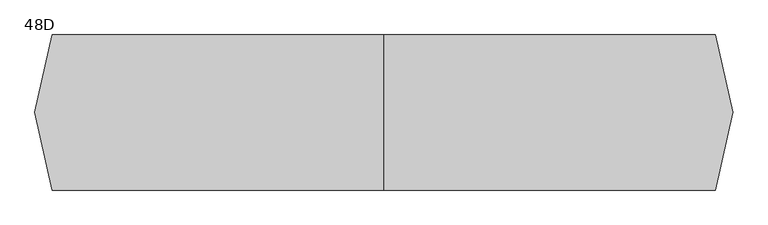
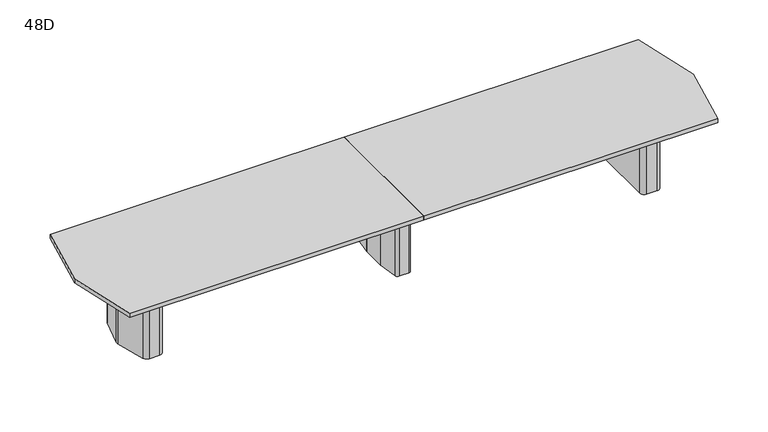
"""IFC4 building model written with IfcOpenShell, lengths in millimetres: furniture geometry, Coalesse_AM_Table_Conference_ETable2_Faceted_18ft_ThreeBase : 48D."""

from ifc_helpers import new_model, si_unit, frame, origin, place, context, project, spatial, polyline, circle_curve, outline, extrude, source, transform, mapped, element, save
from ifc_brep_helpers import plane_surface, cylinder_surface, revolved_surface, advanced_brep


def furniture_48d_39ecba71(model_context):
    return source(origin(), model_context, "Body", "SolidModel", [
        advanced_brep(
        [(35.71875, 206.375, 3.175), (10.31875, 231.775, 3.175), (-10.31875, 231.775, 3.175), (-35.71875, 206.375, 3.175), (-35.71875, -206.375, 3.175), (-10.31875, -231.775, 3.175), (10.31875, -231.775, 3.175), (35.71875, -206.375, 3.175), (-61.11875, 206.375, 0.0), (-10.31875, 257.175, 0.0), (10.31875, 257.175, 0.0), (61.11875, 206.375, 0.0), (61.11875, -206.375, 0.0), (10.31875, -257.175, 0.0), (-10.31875, -257.175, 0.0), (-61.11875, -206.375, 0.0), (-61.11875, -206.375, 3.175), (-61.11875, 206.375, 3.175), (-10.31875, -257.175, 3.175), (10.31875, -257.175, 3.175), (61.11875, -206.375, 3.175), (61.11875, 206.375, 3.175), (10.31875, 257.175, 3.175), (-10.31875, 257.175, 3.175), (-92.6215974, 106.2976848, 698.5), (-92.86875, 102.7629613, 698.5), (-92.86875, -102.7629613, 698.5), (-92.6215974, -106.2976848, 698.5), (-67.7988375, -282.9347235, 698.5), (-42.6459902, -304.8, 698.5), (42.6459902, -304.8, 698.5), (67.7988375, -282.9347235, 698.5), (92.6215974, -106.2976848, 698.5), (92.86875, -102.7629613, 698.5), (92.86875, 102.7629613, 698.5), (92.6215974, 106.2976848, 698.5), (67.7988375, 282.9347235, 698.5), (42.6459902, 304.8, 698.5), (-42.6459902, 304.8, 698.5), (-67.7988375, 282.9347235, 698.5), (10.31875, 231.775, 698.5), (35.71875, 206.375, 698.5), (35.71875, -206.375, 698.5), (10.31875, -231.775, 698.5), (-10.31875, -231.775, 698.5), (-35.71875, -206.375, 698.5), (-35.71875, 206.375, 698.5), (-10.31875, 231.775, 698.5), (-92.6215974, 106.2976848, 3.175), (-67.7988375, 282.9347235, 3.175), (-42.6459902, 304.8, 3.175), (42.6459902, 304.8, 3.175), (67.7988375, 282.9347235, 3.175), (92.6215974, 106.2976848, 3.175), (92.86875, 102.7629613, 3.175), (92.86875, -102.7629613, 3.175), (92.6215974, -106.2976848, 3.175), (67.7988375, -282.9347235, 3.175), (42.6459902, -304.8, 3.175), (-42.6459902, -304.8, 3.175), (-67.7988375, -282.9347235, 3.175), (-92.6215974, -106.2976848, 3.175), (-92.86875, -102.7629613, 3.175), (-92.86875, 102.7629613, 3.175)],
        [
            (0, 1, circle_curve(frame((10.31875, 206.375, 3.175), z_axis=(0.0, 0.0, 1.0), x_axis=(1.0, 0.0, 0.0)), 25.4)),
            (1, 2),
            (2, 3, circle_curve(frame((-10.31875, 206.375, 3.175), z_axis=(0.0, 0.0, 1.0), x_axis=(1.0, 0.0, 0.0)), 25.4)),
            (3, 4),
            (4, 5, circle_curve(frame((-10.31875, -206.375, 3.175), z_axis=(0.0, 0.0, 1.0), x_axis=(1.0, 0.0, 0.0)), 25.4)),
            (5, 6),
            (6, 7, circle_curve(frame((10.31875, -206.375, 3.175), z_axis=(0.0, 0.0, 1.0), x_axis=(1.0, 0.0, 0.0)), 25.4)),
            (7, 0),
            (8, 9, circle_curve(frame((-10.31875, 206.375, 0.0), z_axis=(0.0, 0.0, -1.0), x_axis=(1.0, 0.0, 0.0)), 50.8)),
            (9, 10),
            (10, 11, circle_curve(frame((10.31875, 206.375, 0.0), z_axis=(0.0, 0.0, -1.0), x_axis=(1.0, 0.0, 0.0)), 50.8)),
            (11, 12),
            (12, 13, circle_curve(frame((10.31875, -206.375, 0.0), z_axis=(0.0, 0.0, -1.0), x_axis=(1.0, 0.0, 0.0)), 50.8)),
            (13, 14),
            (14, 15, circle_curve(frame((-10.31875, -206.375, 0.0), z_axis=(0.0, 0.0, -1.0), x_axis=(1.0, 0.0, 0.0)), 50.8)),
            (15, 8),
            (15, 16),
            (16, 17),
            (17, 8),
            (14, 18),
            (18, 16, circle_curve(frame((-10.31875, -206.375, 3.175), z_axis=(0.0, 0.0, -1.0), x_axis=(1.0, 0.0, 0.0)), 50.8)),
            (13, 19),
            (19, 18),
            (12, 20),
            (20, 19, circle_curve(frame((10.31875, -206.375, 3.175), z_axis=(0.0, 0.0, -1.0), x_axis=(1.0, 0.0, 0.0)), 50.8)),
            (11, 21),
            (21, 20),
            (10, 22),
            (22, 21, circle_curve(frame((10.31875, 206.375, 3.175), z_axis=(0.0, 0.0, -1.0), x_axis=(1.0, 0.0, 0.0)), 50.8)),
            (9, 23),
            (23, 22),
            (17, 23, circle_curve(frame((-10.31875, 206.375, 3.175), z_axis=(0.0, 0.0, -1.0), x_axis=(1.0, 0.0, 0.0)), 50.8)),
            (24, 25, circle_curve(frame((-67.46875, 102.7629613, 698.5), z_axis=(0.0, 0.0, 1.0), x_axis=(1.0, 0.0, 0.0)), 25.4)),
            (25, 26),
            (26, 27, circle_curve(frame((-67.46875, -102.7629613, 698.5), z_axis=(0.0, 0.0, 1.0), x_axis=(1.0, 0.0, 0.0)), 25.4)),
            (27, 28),
            (28, 29, circle_curve(frame((-42.6459902, -279.4, 698.5), z_axis=(0.0, 0.0, 1.0), x_axis=(1.0, 0.0, 0.0)), 25.4)),
            (29, 30),
            (30, 31, circle_curve(frame((42.6459902, -279.4, 698.5), z_axis=(0.0, 0.0, 1.0), x_axis=(1.0, 0.0, 0.0)), 25.4)),
            (31, 32),
            (32, 33, circle_curve(frame((67.46875, -102.7629613, 698.5), z_axis=(0.0, 0.0, 1.0), x_axis=(1.0, 0.0, 0.0)), 25.4)),
            (33, 34),
            (34, 35, circle_curve(frame((67.46875, 102.7629613, 698.5), z_axis=(0.0, 0.0, 1.0), x_axis=(1.0, 0.0, 0.0)), 25.4)),
            (35, 36),
            (36, 37, circle_curve(frame((42.6459902, 279.4, 698.5), z_axis=(0.0, 0.0, 1.0), x_axis=(1.0, 0.0, 0.0)), 25.4)),
            (37, 38),
            (38, 39, circle_curve(frame((-42.6459902, 279.4, 698.5), z_axis=(0.0, 0.0, 1.0), x_axis=(1.0, 0.0, 0.0)), 25.4)),
            (39, 24),
            (40, 41, circle_curve(frame((10.31875, 206.375, 698.5), z_axis=(0.0, 0.0, -1.0), x_axis=(1.0, 0.0, 0.0)), 25.4)),
            (41, 42),
            (42, 43, circle_curve(frame((10.31875, -206.375, 698.5), z_axis=(0.0, 0.0, -1.0), x_axis=(1.0, 0.0, 0.0)), 25.4)),
            (43, 44),
            (44, 45, circle_curve(frame((-10.31875, -206.375, 698.5), z_axis=(0.0, 0.0, -1.0), x_axis=(1.0, 0.0, 0.0)), 25.4)),
            (45, 46),
            (46, 47, circle_curve(frame((-10.31875, 206.375, 698.5), z_axis=(0.0, 0.0, -1.0), x_axis=(1.0, 0.0, 0.0)), 25.4)),
            (47, 40),
            (48, 49),
            (49, 50, circle_curve(frame((-42.6459902, 279.4, 3.175), z_axis=(0.0, 0.0, -1.0), x_axis=(1.0, 0.0, 0.0)), 25.4)),
            (50, 51),
            (51, 52, circle_curve(frame((42.6459902, 279.4, 3.175), z_axis=(0.0, 0.0, -1.0), x_axis=(1.0, 0.0, 0.0)), 25.4)),
            (52, 53),
            (53, 54, circle_curve(frame((67.46875, 102.7629613, 3.175), z_axis=(0.0, 0.0, -1.0), x_axis=(1.0, 0.0, 0.0)), 25.4)),
            (54, 55),
            (55, 56, circle_curve(frame((67.46875, -102.7629613, 3.175), z_axis=(0.0, 0.0, -1.0), x_axis=(1.0, 0.0, 0.0)), 25.4)),
            (56, 57),
            (57, 58, circle_curve(frame((42.6459902, -279.4, 3.175), z_axis=(0.0, 0.0, -1.0), x_axis=(1.0, 0.0, 0.0)), 25.4)),
            (58, 59),
            (59, 60, circle_curve(frame((-42.6459902, -279.4, 3.175), z_axis=(0.0, 0.0, -1.0), x_axis=(1.0, 0.0, 0.0)), 25.4)),
            (60, 61),
            (61, 62, circle_curve(frame((-67.46875, -102.7629613, 3.175), z_axis=(0.0, 0.0, -1.0), x_axis=(1.0, 0.0, 0.0)), 25.4)),
            (62, 63),
            (63, 48, circle_curve(frame((-67.46875, 102.7629613, 3.175), z_axis=(0.0, 0.0, -1.0), x_axis=(1.0, 0.0, 0.0)), 25.4)),
            (24, 48),
            (63, 25),
            (62, 26),
            (61, 27),
            (60, 28),
            (59, 29),
            (58, 30),
            (57, 31),
            (56, 32),
            (55, 33),
            (54, 34),
            (53, 35),
            (52, 36),
            (51, 37),
            (50, 38),
            (49, 39),
            (40, 1),
            (0, 41),
            (7, 42),
            (6, 43),
            (5, 44),
            (4, 45),
            (3, 46),
            (2, 47),
        ],
        [
            plane_surface(frame((-61.11875, -206.375, 3.175), z_axis=(0.0, 0.0, 1.0), x_axis=(0.0, -1.0, 0.0))),
            plane_surface(frame((-61.11875, -206.375, 0.0), z_axis=(0.0, 0.0, -1.0), x_axis=(0.0, 1.0, 0.0))),
            plane_surface(frame((-61.11875, 206.375, 3.175), z_axis=(-1.0, 0.0, 0.0), x_axis=(0.0, 0.0, -1.0))),
            cylinder_surface(frame((-10.31875, -206.375, 0.0), z_axis=(0.0, 0.0, 1.0), x_axis=(1.0, 0.0, 0.0)), 50.8),
            plane_surface(frame((-10.31875, -257.175, 3.175), z_axis=(0.0, -1.0, 0.0), x_axis=(0.0, 0.0, -1.0))),
            cylinder_surface(frame((10.31875, -206.375, 0.0), z_axis=(0.0, 0.0, 1.0), x_axis=(1.0, 0.0, 0.0)), 50.8),
            plane_surface(frame((61.11875, -206.375, 3.175), z_axis=(1.0, 0.0, 0.0), x_axis=(0.0, 0.0, -1.0))),
            cylinder_surface(frame((10.31875, 206.375, 0.0), z_axis=(0.0, 0.0, 1.0), x_axis=(1.0, 0.0, 0.0)), 50.8),
            plane_surface(frame((10.31875, 257.175, 3.175), z_axis=(0.0, 1.0, 0.0), x_axis=(0.0, 0.0, -1.0))),
            cylinder_surface(frame((-10.31875, 206.375, 0.0), z_axis=(0.0, 0.0, 1.0), x_axis=(1.0, 0.0, 0.0)), 50.8),
            plane_surface(frame((-42.06875, 102.7629613, 698.5), z_axis=(0.0, 0.0, 1.0), x_axis=(0.0, 1.0, 0.0))),
            plane_surface(frame((-42.06875, 102.7629613, 3.175), z_axis=(0.0, 0.0, -1.0), x_axis=(0.0, -1.0, 0.0))),
            cylinder_surface(frame((-67.46875, 102.7629613, 3.175), z_axis=(0.0, 0.0, 1.0), x_axis=(1.0, 0.0, 0.0)), 25.4),
            plane_surface(frame((-92.86875, 102.7629613, 698.5), z_axis=(-1.0, 0.0, 0.0), x_axis=(0.0, 0.0, -1.0))),
            cylinder_surface(frame((-67.46875, -102.7629613, 3.175), z_axis=(0.0, 0.0, 1.0), x_axis=(1.0, 0.0, 0.0)), 25.4),
            plane_surface(frame((-92.6215974, -106.2976848, 698.5), z_axis=(-0.9902695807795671, -0.13916234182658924, 0.0), x_axis=(0.0, 0.0, -1.0))),
            cylinder_surface(frame((-42.6459902, -279.4, 3.175), z_axis=(0.0, 0.0, 1.0), x_axis=(1.0, 0.0, 0.0)), 25.4),
            plane_surface(frame((-42.6459902, -304.8, 698.5), z_axis=(0.0, -1.0, 0.0), x_axis=(0.0, 0.0, -1.0))),
            cylinder_surface(frame((42.6459902, -279.4, 3.175), z_axis=(0.0, 0.0, 1.0), x_axis=(1.0, 0.0, 0.0)), 25.4),
            plane_surface(frame((67.7988375, -282.9347235, 698.5), z_axis=(0.9902695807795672, -0.13916234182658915, 0.0), x_axis=(0.0, 0.0, -1.0))),
            cylinder_surface(frame((67.46875, -102.7629613, 3.175), z_axis=(0.0, 0.0, 1.0), x_axis=(1.0, 0.0, 0.0)), 25.4),
            plane_surface(frame((92.86875, -102.7629613, 698.5), z_axis=(1.0, 0.0, 0.0), x_axis=(0.0, 0.0, -1.0))),
            cylinder_surface(frame((67.46875, 102.7629613, 3.175), z_axis=(0.0, 0.0, 1.0), x_axis=(1.0, 0.0, 0.0)), 25.4),
            plane_surface(frame((92.6215974, 106.2976848, 698.5), z_axis=(0.9902695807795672, 0.1391623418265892, 0.0), x_axis=(0.0, 0.0, -1.0))),
            cylinder_surface(frame((42.6459902, 279.4, 3.175), z_axis=(0.0, 0.0, 1.0), x_axis=(1.0, 0.0, 0.0)), 25.4),
            plane_surface(frame((42.6459902, 304.8, 698.5), z_axis=(0.0, 1.0, 0.0), x_axis=(0.0, 0.0, -1.0))),
            cylinder_surface(frame((-42.6459902, 279.4, 3.175), z_axis=(0.0, 0.0, 1.0), x_axis=(1.0, 0.0, 0.0)), 25.4),
            plane_surface(frame((-67.7988375, 282.9347235, 698.5), z_axis=(-0.9902695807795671, 0.13916234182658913, 0.0), x_axis=(0.0, 0.0, -1.0))),
            revolved_surface(polyline([(35.71875, 206.375, 3.175), (35.71875, 206.375, 698.5)]), (10.31875, 206.375, 0.0), (0.0, 0.0, -1.0)),
            plane_surface(frame((35.71875, 206.375, 698.5), z_axis=(-1.0, 0.0, 0.0), x_axis=(0.0, 0.0, -1.0))),
            revolved_surface(polyline([(35.71875, -206.375, 3.175), (35.71875, -206.375, 698.5)]), (10.31875, -206.375, 0.0), (0.0, 0.0, -1.0)),
            plane_surface(frame((10.31875, -231.775, 698.5), z_axis=(0.0, 1.0, 0.0), x_axis=(0.0, 0.0, -1.0))),
            revolved_surface(polyline([(15.081249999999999, -206.375, 3.175), (15.081249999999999, -206.375, 698.5)]), (-10.31875, -206.375, 0.0), (0.0, 0.0, -1.0)),
            plane_surface(frame((-35.71875, -206.375, 698.5), z_axis=(1.0, 0.0, 0.0), x_axis=(0.0, 0.0, -1.0))),
            revolved_surface(polyline([(15.081249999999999, 206.375, 3.175), (15.081249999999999, 206.375, 698.5)]), (-10.31875, 206.375, 0.0), (0.0, 0.0, -1.0)),
            plane_surface(frame((-10.31875, 231.775, 698.5), z_axis=(0.0, -1.0, 0.0), x_axis=(0.0, 0.0, -1.0))),
        ],
        [
            (0, [[1, 2, 3, 4, 5, 6, 7, 8]]),
            (1, [[9, 10, 11, 12, 13, 14, 15, 16]]),
            (2, [[-16, 17, 18, 19]]),
            (3, [[-15, 20, 21, -17]]),
            (4, [[-14, 22, 23, -20]]),
            (5, [[-13, 24, 25, -22]]),
            (6, [[-12, 26, 27, -24]]),
            (7, [[-11, 28, 29, -26]]),
            (8, [[-10, 30, 31, -28]]),
            (9, [[-9, -19, 32, -30]]),
            (10, [[33, 34, 35, 36, 37, 38, 39, 40, 41, 42, 43, 44, 45, 46, 47, 48], [49, 50, 51, 52, 53, 54, 55, 56]]),
            (11, [[57, 58, 59, 60, 61, 62, 63, 64, 65, 66, 67, 68, 69, 70, 71, 72], [-18, -21, -23, -25, -27, -29, -31, -32]]),
            (12, [[-33, 73, -72, 74]]),
            (13, [[-34, -74, -71, 75]]),
            (14, [[-35, -75, -70, 76]]),
            (15, [[-36, -76, -69, 77]]),
            (16, [[-37, -77, -68, 78]]),
            (17, [[-38, -78, -67, 79]]),
            (18, [[-39, -79, -66, 80]]),
            (19, [[-40, -80, -65, 81]]),
            (20, [[-41, -81, -64, 82]]),
            (21, [[-42, -82, -63, 83]]),
            (22, [[-43, -83, -62, 84]]),
            (23, [[-44, -84, -61, 85]]),
            (24, [[-45, -85, -60, 86]]),
            (25, [[-46, -86, -59, 87]]),
            (26, [[-47, -87, -58, 88]]),
            (27, [[-48, -88, -57, -73]]),
            (28, [[-49, 89, -1, 90]]),
            (29, [[-50, -90, -8, 91]]),
            (30, [[-51, -91, -7, 92]]),
            (31, [[-52, -92, -6, 93]]),
            (32, [[-53, -93, -5, 94]]),
            (33, [[-54, -94, -4, 95]]),
            (34, [[-55, -95, -3, 96]]),
            (35, [[-56, -96, -2, -89]]),
        ],
    ),
        advanced_brep(
        [(2284.624548, 274.2093613, 698.5), (2244.7579246, 304.8, 698.5), (2155.825, 304.8, 698.5), (2114.55, 263.525, 698.5), (2114.55, -263.525, 698.5), (2155.825, -304.8, 698.5), (2244.7579246, -304.8, 698.5), (2284.624548, -274.2093613, 698.5), (2355.2503901, -10.6333708, 698.5), (2355.2503901, 10.6333708, 698.5), (2152.65, -206.375, 698.5), (2152.65, 206.375, 698.5), (2178.05, 231.775, 698.5), (2237.0608422, 231.775, 698.5), (2261.595338, 212.9490792, 698.5), (2300.2875, 68.54974, 698.5), (2300.2875, -68.54974, 698.5), (2261.595338, -212.9490792, 698.5), (2237.0608422, -231.775, 698.5), (2178.05, -231.775, 698.5), (2284.624548, 274.2093613, 3.175), (2355.2503901, 10.6333708, 3.175), (2355.2503901, -10.6333708, 3.175), (2284.624548, -274.2093613, 3.175), (2244.7579246, -304.8, 3.175), (2155.825, -304.8, 3.175), (2114.55, -263.525, 3.175), (2114.55, 263.525, 3.175), (2155.825, 304.8, 3.175), (2244.7579246, 304.8, 3.175), (2273.8625859, 216.2361187, 3.175), (2237.0608422, 244.475, 3.175), (2178.05, 244.475, 3.175), (2139.95, 206.375, 3.175), (2139.95, -206.375, 3.175), (2178.05, -244.475, 3.175), (2237.0608422, -244.475, 3.175), (2273.8625859, -216.2361187, 3.175), (2312.9875, -70.2217466, 3.175), (2312.9875, 70.2217466, 3.175), (2178.05, -231.775, 3.175), (2152.65, -206.375, 3.175), (2237.0608422, -231.775, 3.175), (2261.595338, -212.9490792, 3.175), (2300.2875, -68.54974, 3.175), (2300.2875, 68.54974, 3.175), (2261.595338, 212.9490792, 3.175), (2237.0608422, 231.775, 3.175), (2178.05, 231.775, 3.175), (2152.65, 206.375, 3.175), (2273.8625859, 216.2361187, 0.0), (2312.9875, 70.2217466, 0.0), (2312.9875, -70.2217466, 0.0), (2273.8625859, -216.2361187, 0.0), (2237.0608422, -244.475, 0.0), (2178.05, -244.475, 0.0), (2139.95, -206.375, 0.0), (2139.95, 206.375, 0.0), (2178.05, 244.475, 0.0), (2237.0608422, 244.475, 0.0)],
        [
            (0, 1, circle_curve(frame((2244.7579246, 263.5270004, 698.5), z_axis=(0.0, 0.0, 1.0), x_axis=(-1.0, 0.0, 0.0)), 41.2729996)),
            (1, 2),
            (2, 3, circle_curve(frame((2155.825, 263.525, 698.5), z_axis=(0.0, 0.0, 1.0), x_axis=(-1.0, 0.0, 0.0)), 41.275)),
            (3, 4),
            (4, 5, circle_curve(frame((2155.825, -263.525, 698.5), z_axis=(0.0, 0.0, 1.0), x_axis=(-1.0, 0.0, 0.0)), 41.275)),
            (5, 6),
            (6, 7, circle_curve(frame((2244.7579246, -263.5270004, 698.5), z_axis=(0.0, 0.0, 1.0), x_axis=(-1.0, 0.0, 0.0)), 41.2729996)),
            (7, 8),
            (8, 9, circle_curve(frame((2315.5665979, 0.0, 698.5), z_axis=(0.0, 0.0, 1.0), x_axis=(-1.0, 0.0, 0.0)), 41.0837187)),
            (9, 0),
            (10, 11),
            (11, 12, circle_curve(frame((2178.05, 206.375, 698.5), z_axis=(0.0, 0.0, -1.0), x_axis=(-1.0, 0.0, 0.0)), 25.4)),
            (12, 13),
            (13, 14, circle_curve(frame((2237.0608422, 206.375, 698.5), z_axis=(0.0, 0.0, -1.0), x_axis=(-1.0, 0.0, 0.0)), 25.4)),
            (14, 15),
            (15, 16),
            (16, 17),
            (17, 18, circle_curve(frame((2237.0608422, -206.375, 698.5), z_axis=(0.0, 0.0, -1.0), x_axis=(-1.0, 0.0, 0.0)), 25.4)),
            (18, 19),
            (19, 10, circle_curve(frame((2178.05, -206.375, 698.5), z_axis=(0.0, 0.0, -1.0), x_axis=(-1.0, 0.0, 0.0)), 25.4)),
            (20, 21),
            (21, 22, circle_curve(frame((2315.5665979, 0.0, 3.175), z_axis=(0.0, 0.0, -1.0), x_axis=(-1.0, 0.0, 0.0)), 41.0837187)),
            (22, 23),
            (23, 24, circle_curve(frame((2244.7579246, -263.5270004, 3.175), z_axis=(0.0, 0.0, -1.0), x_axis=(-1.0, 0.0, 0.0)), 41.2729996)),
            (24, 25),
            (25, 26, circle_curve(frame((2155.825, -263.525, 3.175), z_axis=(0.0, 0.0, -1.0), x_axis=(-1.0, 0.0, 0.0)), 41.275)),
            (26, 27),
            (27, 28, circle_curve(frame((2155.825, 263.525, 3.175), z_axis=(0.0, 0.0, -1.0), x_axis=(-1.0, 0.0, 0.0)), 41.275)),
            (28, 29),
            (29, 20, circle_curve(frame((2244.7579246, 263.5270004, 3.175), z_axis=(0.0, 0.0, -1.0), x_axis=(-1.0, 0.0, 0.0)), 41.2729996)),
            (30, 31, circle_curve(frame((2237.0608422, 206.375, 3.175), z_axis=(0.0, 0.0, 1.0), x_axis=(-1.0, 0.0, 0.0)), 38.1)),
            (31, 32),
            (32, 33, circle_curve(frame((2178.05, 206.375, 3.175), z_axis=(0.0, 0.0, 1.0), x_axis=(-1.0, 0.0, 0.0)), 38.1)),
            (33, 34),
            (34, 35, circle_curve(frame((2178.05, -206.375, 3.175), z_axis=(0.0, 0.0, 1.0), x_axis=(-1.0, 0.0, 0.0)), 38.1)),
            (35, 36),
            (36, 37, circle_curve(frame((2237.0608422, -206.375, 3.175), z_axis=(0.0, 0.0, 1.0), x_axis=(-1.0, 0.0, 0.0)), 38.1)),
            (37, 38),
            (38, 39),
            (39, 30),
            (9, 21),
            (20, 0),
            (8, 22),
            (7, 23),
            (6, 24),
            (5, 25),
            (4, 26),
            (3, 27),
            (2, 28),
            (1, 29),
            (19, 40),
            (40, 41, circle_curve(frame((2178.05, -206.375, 3.175), z_axis=(0.0, 0.0, -1.0), x_axis=(-1.0, 0.0, 0.0)), 25.4)),
            (41, 10),
            (18, 42),
            (42, 40),
            (17, 43),
            (43, 42, circle_curve(frame((2237.0608422, -206.375, 3.175), z_axis=(0.0, 0.0, -1.0), x_axis=(-1.0, 0.0, 0.0)), 25.4)),
            (16, 44),
            (44, 43),
            (15, 45),
            (45, 44),
            (14, 46),
            (46, 45),
            (13, 47),
            (47, 46, circle_curve(frame((2237.0608422, 206.375, 3.175), z_axis=(0.0, 0.0, -1.0), x_axis=(-1.0, 0.0, 0.0)), 25.4)),
            (12, 48),
            (48, 47),
            (11, 49),
            (49, 48, circle_curve(frame((2178.05, 206.375, 3.175), z_axis=(0.0, 0.0, -1.0), x_axis=(-1.0, 0.0, 0.0)), 25.4)),
            (41, 49),
            (50, 51),
            (51, 52),
            (52, 53),
            (53, 54, circle_curve(frame((2237.0608422, -206.375, 0.0), z_axis=(0.0, 0.0, -1.0), x_axis=(-1.0, 0.0, 0.0)), 38.1)),
            (54, 55),
            (55, 56, circle_curve(frame((2178.05, -206.375, 0.0), z_axis=(0.0, 0.0, -1.0), x_axis=(-1.0, 0.0, 0.0)), 38.1)),
            (56, 57),
            (57, 58, circle_curve(frame((2178.05, 206.375, 0.0), z_axis=(0.0, 0.0, -1.0), x_axis=(-1.0, 0.0, 0.0)), 38.1)),
            (58, 59),
            (59, 50, circle_curve(frame((2237.0608422, 206.375, 0.0), z_axis=(0.0, 0.0, -1.0), x_axis=(-1.0, 0.0, 0.0)), 38.1)),
            (50, 30),
            (39, 51),
            (38, 52),
            (37, 53),
            (36, 54),
            (35, 55),
            (34, 56),
            (33, 57),
            (32, 58),
            (31, 59),
        ],
        [
            plane_surface(frame((2355.2374275, 10.6817473, 698.5), z_axis=(0.0, 0.0, 1.0000000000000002), x_axis=(0.25882201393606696, -0.9659250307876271, 0.0))),
            plane_surface(frame((2355.2374275, 10.6817473, 3.175), z_axis=(0.0, 0.0, -1.0000000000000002), x_axis=(-0.25882201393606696, 0.9659250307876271, 0.0))),
            plane_surface(frame((2284.624548, 274.2093613, 698.5), z_axis=(0.9659250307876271, 0.25882201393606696, 0.0), x_axis=(0.0, 0.0, -1.0))),
            cylinder_surface(frame((2315.5665979, 0.0, 3.175), z_axis=(0.0, 0.0, 1.0), x_axis=(-1.0, 0.0, 0.0)), 41.0837187),
            plane_surface(frame((2355.2503901, -10.6333708, 698.5), z_axis=(0.9659250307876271, -0.2588220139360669, 0.0), x_axis=(0.0, 0.0, -1.0))),
            cylinder_surface(frame((2244.7579246, -263.5270004, 3.175), z_axis=(0.0, 0.0, 1.0), x_axis=(-1.0, 0.0, 0.0)), 41.2729996),
            plane_surface(frame((2244.7579246, -304.8, 698.5), z_axis=(0.0, -1.0, 0.0), x_axis=(0.0, 0.0, -1.0))),
            cylinder_surface(frame((2155.825, -263.525, 3.175), z_axis=(0.0, 0.0, 1.0), x_axis=(-1.0, 0.0, 0.0)), 41.275),
            plane_surface(frame((2114.55, -263.525, 698.5), z_axis=(-1.0, 0.0, 0.0), x_axis=(0.0, 0.0, -1.0))),
            cylinder_surface(frame((2155.825, 263.525, 3.175), z_axis=(0.0, 0.0, 1.0), x_axis=(-1.0, 0.0, 0.0)), 41.275),
            plane_surface(frame((2155.825, 304.8, 698.5), z_axis=(0.0, 1.0, 0.0), x_axis=(0.0, 0.0, -1.0))),
            cylinder_surface(frame((2244.7579246, 263.5270004, 3.175), z_axis=(0.0, 0.0, 1.0), x_axis=(-1.0, 0.0, 0.0)), 41.2729996),
            revolved_surface(polyline([(2152.65, -206.375, 3.175), (2152.65, -206.375, 698.5)]), (2178.05, -206.375, 0.0), (0.0, 0.0, -1.0)),
            plane_surface(frame((2178.05, -231.775, 698.5), z_axis=(0.0, 1.0, 0.0), x_axis=(0.0, 0.0, -1.0))),
            revolved_surface(polyline([(2211.6608422, -206.375, 3.175), (2211.6608422, -206.375, 698.5)]), (2237.0608422, -206.375, 0.0), (0.0, 0.0, -1.0)),
            plane_surface(frame((2261.595338, -212.9490792, 698.5), z_axis=(-0.9659250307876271, 0.2588220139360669, 0.0), x_axis=(0.0, 0.0, -1.0))),
            plane_surface(frame((2300.2875, -68.54974, 698.5), z_axis=(-1.0, 0.0, 0.0), x_axis=(0.0, 0.0, -1.0))),
            plane_surface(frame((2300.2875, 68.54974, 698.5), z_axis=(-0.9659250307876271, -0.25882201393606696, 0.0), x_axis=(0.0, 0.0, -1.0))),
            revolved_surface(polyline([(2211.6608422, 206.375, 3.175), (2211.6608422, 206.375, 698.5)]), (2237.0608422, 206.375, 0.0), (0.0, 0.0, -1.0)),
            plane_surface(frame((2237.0608422, 231.775, 698.5), z_axis=(0.0, -1.0, 0.0), x_axis=(0.0, 0.0, -1.0))),
            revolved_surface(polyline([(2152.65, 206.375, 3.175), (2152.65, 206.375, 698.5)]), (2178.05, 206.375, 0.0), (0.0, 0.0, -1.0)),
            plane_surface(frame((2152.65, 206.375, 698.5), z_axis=(1.0, 0.0, 0.0), x_axis=(0.0, 0.0, -1.0))),
            plane_surface(frame((2312.5547479, 71.8367796, 3.175), z_axis=(0.0, 0.0, 1.0), x_axis=(0.25882201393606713, -0.965925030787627, 0.0))),
            plane_surface(frame((2312.5547479, 71.8367796, 0.0), z_axis=(0.0, 0.0, -1.0), x_axis=(-0.25882201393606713, 0.965925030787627, 0.0))),
            plane_surface(frame((2273.8625859, 216.2361187, 3.175), z_axis=(0.965925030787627, 0.25882201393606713, 0.0), x_axis=(0.0, 0.0, -1.0))),
            plane_surface(frame((2312.9875, 70.2217466, 3.175), z_axis=(1.0, 0.0, 0.0), x_axis=(0.0, 0.0, -1.0))),
            plane_surface(frame((2312.9875, -70.2217466, 3.175), z_axis=(0.9659250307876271, -0.2588220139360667, 0.0), x_axis=(0.0, 0.0, -1.0))),
            cylinder_surface(frame((2237.0608422, -206.375, 0.0), z_axis=(0.0, 0.0, 1.0), x_axis=(-1.0, 0.0, 0.0)), 38.1),
            plane_surface(frame((2237.0608422, -244.475, 3.175), z_axis=(0.0, -1.0, 0.0), x_axis=(0.0, 0.0, -1.0))),
            cylinder_surface(frame((2178.05, -206.375, 0.0), z_axis=(0.0, 0.0, 1.0), x_axis=(-1.0, 0.0, 0.0)), 38.1),
            plane_surface(frame((2139.95, -206.375, 3.175), z_axis=(-1.0, 0.0, 0.0), x_axis=(0.0, 0.0, -1.0))),
            cylinder_surface(frame((2178.05, 206.375, 0.0), z_axis=(0.0, 0.0, 1.0), x_axis=(-1.0, 0.0, 0.0)), 38.1),
            plane_surface(frame((2178.05, 244.475, 3.175), z_axis=(0.0, 1.0, 0.0), x_axis=(0.0, 0.0, -1.0))),
            cylinder_surface(frame((2237.0608422, 206.375, 0.0), z_axis=(0.0, 0.0, 1.0), x_axis=(-1.0, 0.0, 0.0)), 38.1),
        ],
        [
            (0, [[1, 2, 3, 4, 5, 6, 7, 8, 9, 10], [11, 12, 13, 14, 15, 16, 17, 18, 19, 20]]),
            (1, [[21, 22, 23, 24, 25, 26, 27, 28, 29, 30], [31, 32, 33, 34, 35, 36, 37, 38, 39, 40]]),
            (2, [[41, -21, 42, -10]]),
            (3, [[43, -22, -41, -9]]),
            (4, [[44, -23, -43, -8]]),
            (5, [[45, -24, -44, -7]]),
            (6, [[46, -25, -45, -6]]),
            (7, [[47, -26, -46, -5]]),
            (8, [[48, -27, -47, -4]]),
            (9, [[49, -28, -48, -3]]),
            (10, [[50, -29, -49, -2]]),
            (11, [[-42, -30, -50, -1]]),
            (12, [[51, 52, 53, -20]]),
            (13, [[54, 55, -51, -19]]),
            (14, [[56, 57, -54, -18]]),
            (15, [[58, 59, -56, -17]]),
            (16, [[60, 61, -58, -16]]),
            (17, [[62, 63, -60, -15]]),
            (18, [[64, 65, -62, -14]]),
            (19, [[66, 67, -64, -13]]),
            (20, [[68, 69, -66, -12]]),
            (21, [[-53, 70, -68, -11]]),
            (22, [[-55, -57, -59, -61, -63, -65, -67, -69, -70, -52]]),
            (23, [[71, 72, 73, 74, 75, 76, 77, 78, 79, 80]]),
            (24, [[81, -40, 82, -71]]),
            (25, [[-82, -39, 83, -72]]),
            (26, [[-83, -38, 84, -73]]),
            (27, [[-84, -37, 85, -74]]),
            (28, [[-85, -36, 86, -75]]),
            (29, [[-86, -35, 87, -76]]),
            (30, [[-87, -34, 88, -77]]),
            (31, [[-88, -33, 89, -78]]),
            (32, [[-89, -32, 90, -79]]),
            (33, [[-90, -31, -81, -80]]),
        ],
    ),
        advanced_brep(
        [(-2295.737048, 274.2093613, 698.5), (-2366.3628901, 10.6333708, 698.5), (-2366.3628901, -10.6333708, 698.5), (-2295.737048, -274.2093613, 698.5), (-2255.8704246, -304.8, 698.5), (-2166.9375, -304.8, 698.5), (-2125.6625, -263.525, 698.5), (-2125.6625, 263.525, 698.5), (-2166.9375, 304.8, 698.5), (-2255.8704246, 304.8, 698.5), (-2163.7625, -206.375, 698.5), (-2189.1625, -231.775, 698.5), (-2248.1733422, -231.775, 698.5), (-2272.707838, -212.9490792, 698.5), (-2311.4, -68.54974, 698.5), (-2311.4, 68.54974, 698.5), (-2272.707838, 212.9490792, 698.5), (-2248.1733422, 231.775, 698.5), (-2189.1625, 231.775, 698.5), (-2163.7625, 206.375, 698.5), (-2295.737048, 274.2093613, 3.175), (-2255.8704246, 304.8, 3.175), (-2166.9375, 304.8, 3.175), (-2125.6625, 263.525, 3.175), (-2125.6625, -263.525, 3.175), (-2166.9375, -304.8, 3.175), (-2255.8704246, -304.8, 3.175), (-2295.737048, -274.2093613, 3.175), (-2366.3628901, -10.6333708, 3.175), (-2366.3628901, 10.6333708, 3.175), (-2284.9750859, 216.2361187, 3.175), (-2324.1, 70.2217466, 3.175), (-2324.1, -70.2217466, 3.175), (-2284.9750859, -216.2361187, 3.175), (-2248.1733422, -244.475, 3.175), (-2189.1625, -244.475, 3.175), (-2151.0625, -206.375, 3.175), (-2151.0625, 206.375, 3.175), (-2189.1625, 244.475, 3.175), (-2248.1733422, 244.475, 3.175), (-2163.7625, -206.375, 3.175), (-2189.1625, -231.775, 3.175), (-2248.1733422, -231.775, 3.175), (-2272.707838, -212.9490792, 3.175), (-2311.4, -68.54974, 3.175), (-2311.4, 68.54974, 3.175), (-2272.707838, 212.9490792, 3.175), (-2248.1733422, 231.775, 3.175), (-2189.1625, 231.775, 3.175), (-2163.7625, 206.375, 3.175), (-2284.9750859, 216.2361187, 0.0), (-2248.1733422, 244.475, 0.0), (-2189.1625, 244.475, 0.0), (-2151.0625, 206.375, 0.0), (-2151.0625, -206.375, 0.0), (-2189.1625, -244.475, 0.0), (-2248.1733422, -244.475, 0.0), (-2284.9750859, -216.2361187, 0.0), (-2324.1, -70.2217466, 0.0), (-2324.1, 70.2217466, 0.0)],
        [
            (0, 1),
            (1, 2, circle_curve(frame((-2326.6790979, 0.0, 698.5), z_axis=(0.0, 0.0, 1.0), x_axis=(1.0, 0.0, 0.0)), 41.0837187)),
            (2, 3),
            (3, 4, circle_curve(frame((-2255.8704246, -263.5270004, 698.5), z_axis=(0.0, 0.0, 1.0), x_axis=(1.0, 0.0, 0.0)), 41.2729996)),
            (4, 5),
            (5, 6, circle_curve(frame((-2166.9375, -263.525, 698.5), z_axis=(0.0, 0.0, 1.0), x_axis=(1.0, 0.0, 0.0)), 41.275)),
            (6, 7),
            (7, 8, circle_curve(frame((-2166.9375, 263.525, 698.5), z_axis=(0.0, 0.0, 1.0), x_axis=(1.0, 0.0, 0.0)), 41.275)),
            (8, 9),
            (9, 0, circle_curve(frame((-2255.8704246, 263.5270004, 698.5), z_axis=(0.0, 0.0, 1.0), x_axis=(1.0, 0.0, 0.0)), 41.2729996)),
            (10, 11, circle_curve(frame((-2189.1625, -206.375, 698.5), z_axis=(0.0, 0.0, -1.0), x_axis=(1.0, 0.0, 0.0)), 25.4)),
            (11, 12),
            (12, 13, circle_curve(frame((-2248.1733422, -206.375, 698.5), z_axis=(0.0, 0.0, -1.0), x_axis=(1.0, 0.0, 0.0)), 25.4)),
            (13, 14),
            (14, 15),
            (15, 16),
            (16, 17, circle_curve(frame((-2248.1733422, 206.375, 698.5), z_axis=(0.0, 0.0, -1.0), x_axis=(1.0, 0.0, 0.0)), 25.4)),
            (17, 18),
            (18, 19, circle_curve(frame((-2189.1625, 206.375, 698.5), z_axis=(0.0, 0.0, -1.0), x_axis=(1.0, 0.0, 0.0)), 25.4)),
            (19, 10),
            (20, 21, circle_curve(frame((-2255.8704246, 263.5270004, 3.175), z_axis=(0.0, 0.0, -1.0), x_axis=(1.0, 0.0, 0.0)), 41.2729996)),
            (21, 22),
            (22, 23, circle_curve(frame((-2166.9375, 263.525, 3.175), z_axis=(0.0, 0.0, -1.0), x_axis=(1.0, 0.0, 0.0)), 41.275)),
            (23, 24),
            (24, 25, circle_curve(frame((-2166.9375, -263.525, 3.175), z_axis=(0.0, 0.0, -1.0), x_axis=(1.0, 0.0, 0.0)), 41.275)),
            (25, 26),
            (26, 27, circle_curve(frame((-2255.8704246, -263.5270004, 3.175), z_axis=(0.0, 0.0, -1.0), x_axis=(1.0, 0.0, 0.0)), 41.2729996)),
            (27, 28),
            (28, 29, circle_curve(frame((-2326.6790979, 0.0, 3.175), z_axis=(0.0, 0.0, -1.0), x_axis=(1.0, 0.0, 0.0)), 41.0837187)),
            (29, 20),
            (30, 31),
            (31, 32),
            (32, 33),
            (33, 34, circle_curve(frame((-2248.1733422, -206.375, 3.175), z_axis=(0.0, 0.0, 1.0), x_axis=(1.0, 0.0, 0.0)), 38.1)),
            (34, 35),
            (35, 36, circle_curve(frame((-2189.1625, -206.375, 3.175), z_axis=(0.0, 0.0, 1.0), x_axis=(1.0, 0.0, 0.0)), 38.1)),
            (36, 37),
            (37, 38, circle_curve(frame((-2189.1625, 206.375, 3.175), z_axis=(0.0, 0.0, 1.0), x_axis=(1.0, 0.0, 0.0)), 38.1)),
            (38, 39),
            (39, 30, circle_curve(frame((-2248.1733422, 206.375, 3.175), z_axis=(0.0, 0.0, 1.0), x_axis=(1.0, 0.0, 0.0)), 38.1)),
            (0, 20),
            (29, 1),
            (28, 2),
            (27, 3),
            (26, 4),
            (25, 5),
            (24, 6),
            (23, 7),
            (22, 8),
            (21, 9),
            (10, 40),
            (40, 41, circle_curve(frame((-2189.1625, -206.375, 3.175), z_axis=(0.0, 0.0, -1.0), x_axis=(1.0, 0.0, 0.0)), 25.4)),
            (41, 11),
            (41, 42),
            (42, 12),
            (42, 43, circle_curve(frame((-2248.1733422, -206.375, 3.175), z_axis=(0.0, 0.0, -1.0), x_axis=(1.0, 0.0, 0.0)), 25.4)),
            (43, 13),
            (43, 44),
            (44, 14),
            (44, 45),
            (45, 15),
            (45, 46),
            (46, 16),
            (46, 47, circle_curve(frame((-2248.1733422, 206.375, 3.175), z_axis=(0.0, 0.0, -1.0), x_axis=(1.0, 0.0, 0.0)), 25.4)),
            (47, 17),
            (47, 48),
            (48, 18),
            (48, 49, circle_curve(frame((-2189.1625, 206.375, 3.175), z_axis=(0.0, 0.0, -1.0), x_axis=(1.0, 0.0, 0.0)), 25.4)),
            (49, 19),
            (49, 40),
            (50, 51, circle_curve(frame((-2248.1733422, 206.375, 0.0), z_axis=(0.0, 0.0, -1.0), x_axis=(1.0, 0.0, 0.0)), 38.1)),
            (51, 52),
            (52, 53, circle_curve(frame((-2189.1625, 206.375, 0.0), z_axis=(0.0, 0.0, -1.0), x_axis=(1.0, 0.0, 0.0)), 38.1)),
            (53, 54),
            (54, 55, circle_curve(frame((-2189.1625, -206.375, 0.0), z_axis=(0.0, 0.0, -1.0), x_axis=(1.0, 0.0, 0.0)), 38.1)),
            (55, 56),
            (56, 57, circle_curve(frame((-2248.1733422, -206.375, 0.0), z_axis=(0.0, 0.0, -1.0), x_axis=(1.0, 0.0, 0.0)), 38.1)),
            (57, 58),
            (58, 59),
            (59, 50),
            (59, 31),
            (30, 50),
            (58, 32),
            (57, 33),
            (56, 34),
            (55, 35),
            (54, 36),
            (53, 37),
            (52, 38),
            (51, 39),
        ],
        [
            plane_surface(frame((-2366.3499275, 10.6817473, 698.5), z_axis=(0.0, 0.0, 1.0000000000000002), x_axis=(-0.25882201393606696, -0.9659250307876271, 0.0))),
            plane_surface(frame((-2366.3499275, 10.6817473, 3.175), z_axis=(0.0, 0.0, -1.0000000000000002), x_axis=(0.25882201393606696, 0.9659250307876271, 0.0))),
            plane_surface(frame((-2295.737048, 274.2093613, 698.5), z_axis=(-0.9659250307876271, 0.25882201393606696, 0.0), x_axis=(0.0, 0.0, -1.0))),
            cylinder_surface(frame((-2326.6790979, 0.0, 3.175), z_axis=(0.0, 0.0, 1.0), x_axis=(1.0, 0.0, 0.0)), 41.0837187),
            plane_surface(frame((-2366.3628901, -10.6333708, 698.5), z_axis=(-0.9659250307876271, -0.2588220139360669, 0.0), x_axis=(0.0, 0.0, -1.0))),
            cylinder_surface(frame((-2255.8704246, -263.5270004, 3.175), z_axis=(0.0, 0.0, 1.0), x_axis=(1.0, 0.0, 0.0)), 41.2729996),
            plane_surface(frame((-2255.8704246, -304.8, 698.5), z_axis=(0.0, -1.0, 0.0), x_axis=(0.0, 0.0, -1.0))),
            cylinder_surface(frame((-2166.9375, -263.525, 3.175), z_axis=(0.0, 0.0, 1.0), x_axis=(1.0, 0.0, 0.0)), 41.275),
            plane_surface(frame((-2125.6625, -263.525, 698.5), z_axis=(1.0, 0.0, 0.0), x_axis=(0.0, 0.0, -1.0))),
            cylinder_surface(frame((-2166.9375, 263.525, 3.175), z_axis=(0.0, 0.0, 1.0), x_axis=(1.0, 0.0, 0.0)), 41.275),
            plane_surface(frame((-2166.9375, 304.8, 698.5), z_axis=(0.0, 1.0, 0.0), x_axis=(0.0, 0.0, -1.0))),
            cylinder_surface(frame((-2255.8704246, 263.5270004, 3.175), z_axis=(0.0, 0.0, 1.0), x_axis=(1.0, 0.0, 0.0)), 41.2729996),
            revolved_surface(polyline([(-2163.7625, -206.375, 3.175), (-2163.7625, -206.375, 698.5)]), (-2189.1625, -206.375, 0.0), (0.0, 0.0, -1.0)),
            plane_surface(frame((-2189.1625, -231.775, 698.5), z_axis=(0.0, 1.0, 0.0), x_axis=(0.0, 0.0, -1.0))),
            revolved_surface(polyline([(-2222.7733422, -206.375, 3.175), (-2222.7733422, -206.375, 698.5)]), (-2248.1733422, -206.375, 0.0), (0.0, 0.0, -1.0)),
            plane_surface(frame((-2272.707838, -212.9490792, 698.5), z_axis=(0.9659250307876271, 0.2588220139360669, 0.0), x_axis=(0.0, 0.0, -1.0))),
            plane_surface(frame((-2311.4, -68.54974, 698.5), z_axis=(1.0, 0.0, 0.0), x_axis=(0.0, 0.0, -1.0))),
            plane_surface(frame((-2311.4, 68.54974, 698.5), z_axis=(0.9659250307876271, -0.25882201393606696, 0.0), x_axis=(0.0, 0.0, -1.0))),
            revolved_surface(polyline([(-2222.7733422, 206.375, 3.175), (-2222.7733422, 206.375, 698.5)]), (-2248.1733422, 206.375, 0.0), (0.0, 0.0, -1.0)),
            plane_surface(frame((-2248.1733422, 231.775, 698.5), z_axis=(0.0, -1.0, 0.0), x_axis=(0.0, 0.0, -1.0))),
            revolved_surface(polyline([(-2163.7625, 206.375, 3.175), (-2163.7625, 206.375, 698.5)]), (-2189.1625, 206.375, 0.0), (0.0, 0.0, -1.0)),
            plane_surface(frame((-2163.7625, 206.375, 698.5), z_axis=(-1.0, 0.0, 0.0), x_axis=(0.0, 0.0, -1.0))),
            plane_surface(frame((-2323.6672479, 71.8367796, 3.175), z_axis=(0.0, 0.0, 1.0), x_axis=(-0.25882201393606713, -0.965925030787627, 0.0))),
            plane_surface(frame((-2323.6672479, 71.8367796, 0.0), z_axis=(0.0, 0.0, -1.0), x_axis=(0.25882201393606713, 0.965925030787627, 0.0))),
            plane_surface(frame((-2284.9750859, 216.2361187, 3.175), z_axis=(-0.965925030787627, 0.25882201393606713, 0.0), x_axis=(0.0, 0.0, -1.0))),
            plane_surface(frame((-2324.1, 70.2217466, 3.175), z_axis=(-1.0, 0.0, 0.0), x_axis=(0.0, 0.0, -1.0))),
            plane_surface(frame((-2324.1, -70.2217466, 3.175), z_axis=(-0.9659250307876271, -0.2588220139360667, 0.0), x_axis=(0.0, 0.0, -1.0))),
            cylinder_surface(frame((-2248.1733422, -206.375, 0.0), z_axis=(0.0, 0.0, 1.0), x_axis=(1.0, 0.0, 0.0)), 38.1),
            plane_surface(frame((-2248.1733422, -244.475, 3.175), z_axis=(0.0, -1.0, 0.0), x_axis=(0.0, 0.0, -1.0))),
            cylinder_surface(frame((-2189.1625, -206.375, 0.0), z_axis=(0.0, 0.0, 1.0), x_axis=(1.0, 0.0, 0.0)), 38.1),
            plane_surface(frame((-2151.0625, -206.375, 3.175), z_axis=(1.0, 0.0, 0.0), x_axis=(0.0, 0.0, -1.0))),
            cylinder_surface(frame((-2189.1625, 206.375, 0.0), z_axis=(0.0, 0.0, 1.0), x_axis=(1.0, 0.0, 0.0)), 38.1),
            plane_surface(frame((-2189.1625, 244.475, 3.175), z_axis=(0.0, 1.0, 0.0), x_axis=(0.0, 0.0, -1.0))),
            cylinder_surface(frame((-2248.1733422, 206.375, 0.0), z_axis=(0.0, 0.0, 1.0), x_axis=(1.0, 0.0, 0.0)), 38.1),
        ],
        [
            (0, [[1, 2, 3, 4, 5, 6, 7, 8, 9, 10], [11, 12, 13, 14, 15, 16, 17, 18, 19, 20]]),
            (1, [[21, 22, 23, 24, 25, 26, 27, 28, 29, 30], [31, 32, 33, 34, 35, 36, 37, 38, 39, 40]]),
            (2, [[-1, 41, -30, 42]]),
            (3, [[-2, -42, -29, 43]]),
            (4, [[-3, -43, -28, 44]]),
            (5, [[-4, -44, -27, 45]]),
            (6, [[-5, -45, -26, 46]]),
            (7, [[-6, -46, -25, 47]]),
            (8, [[-7, -47, -24, 48]]),
            (9, [[-8, -48, -23, 49]]),
            (10, [[-9, -49, -22, 50]]),
            (11, [[-10, -50, -21, -41]]),
            (12, [[-11, 51, 52, 53]]),
            (13, [[-12, -53, 54, 55]]),
            (14, [[-13, -55, 56, 57]]),
            (15, [[-14, -57, 58, 59]]),
            (16, [[-15, -59, 60, 61]]),
            (17, [[-16, -61, 62, 63]]),
            (18, [[-17, -63, 64, 65]]),
            (19, [[-18, -65, 66, 67]]),
            (20, [[-19, -67, 68, 69]]),
            (21, [[-20, -69, 70, -51]]),
            (22, [[-52, -70, -68, -66, -64, -62, -60, -58, -56, -54]]),
            (23, [[71, 72, 73, 74, 75, 76, 77, 78, 79, 80]]),
            (24, [[-80, 81, -31, 82]]),
            (25, [[-79, 83, -32, -81]]),
            (26, [[-78, 84, -33, -83]]),
            (27, [[-77, 85, -34, -84]]),
            (28, [[-76, 86, -35, -85]]),
            (29, [[-75, 87, -36, -86]]),
            (30, [[-74, 88, -37, -87]]),
            (31, [[-73, 89, -38, -88]]),
            (32, [[-72, 90, -39, -89]]),
            (33, [[-71, -82, -40, -90]]),
        ],
    ),
        extrude(outline(polyline([(2608.0541794, 609.6), (2743.2, 0.0), (2608.0541794, -609.6), (0.0, -609.6), (0.0, 609.6), (2608.0541794, 609.6)])), frame((0.0, 0.0, 698.5), z_axis=(0.0, 0.0, 1.0), x_axis=(1.0, 0.0, 0.0)), (0.0, 0.0, 1.0), 38.1),
        extrude(outline(polyline([(0.0, -609.6), (-2608.0541794, -609.6), (-2743.2, 0.0), (-2608.0541794, 609.6), (0.0, 609.6), (0.0, -609.6)])), frame((0.0, 0.0, 698.5), z_axis=(0.0, 0.0, 1.0), x_axis=(1.0, 0.0, 0.0)), (0.0, 0.0, 1.0), 38.1),
        extrude(outline(polyline([(96.8375, 698.5), (103.1875, 698.5), (103.1875, 476.25), (-103.1875, 476.25), (-103.1875, 698.5), (-96.8375, 698.5), (-96.8375, 482.6), (96.8375, 482.6), (96.8375, 698.5)])), frame((-2125.6625, 0.0, 0.0), z_axis=(1.0, 0.0, 0.0), x_axis=(0.0, 1.0, 0.0)), (0.0, 0.0, 1.0), 4240.2125),
    ])


if __name__ == "__main__":
    model = new_model("IFC4")
    model_context = context("Model", 3, world=origin())
    ifc_project = project(units=[si_unit("LENGTHUNIT", "METRE", prefix="MILLI")], contexts=[model_context])
    site = spatial("IfcSite", under=ifc_project)
    building = spatial("IfcBuilding", under=site)
    placement = place(None, origin())
    furniture_48d_shape = furniture_48d_39ecba71(model_context)
    element("IfcFurniture", 1, ObjectType="Coalesse_AM_Table_Conference_ETable2_Faceted_18ft_ThreeBase : 48D", at=placement, inside=building, context=model_context, shape_type="MappedRepresentation", body=[
        mapped(furniture_48d_shape, transform((0.0, 0.0, 0.0), x_axis=(1.0, 0.0, 0.0), y_axis=(0.0, 1.0, 0.0), z_axis=(0.0, 0.0, 1.0))),
    ])
    save(model, "model.ifc")
